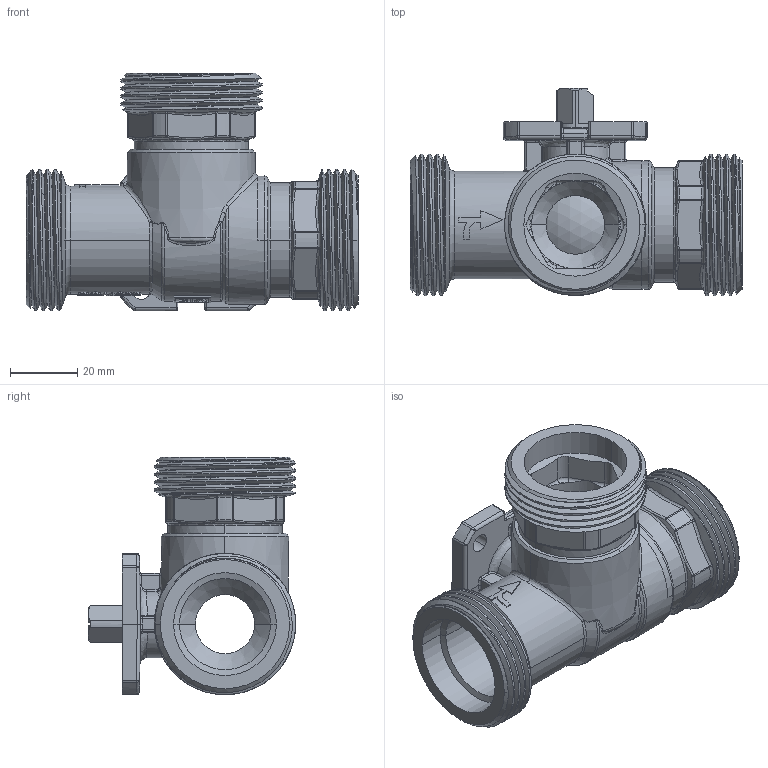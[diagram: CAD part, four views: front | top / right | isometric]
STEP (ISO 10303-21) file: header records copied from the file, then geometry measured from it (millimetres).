
FILE_DESCRIPTION((''),'2;1');
FILE_NAME('H988FT020_2346_SW0001','2015-05-11T',('64ciro'),('Vir spa'),'PRO/ENGINEER BY PARAMETRIC TECHNOLOGY CORPORATION, 2010280','PRO/ENGINEER BY PARAMETRIC TECHNOLOGY CORPORATION, 2010280','');
FILE_SCHEMA(('CONFIG_CONTROL_DESIGN'));
Products named in the file (1): H988FT020_2346_SW0001
Bounding box: 98.4 x 61.45 x 70.5 mm (x, y, z)
Volume: 83331.6 mm3; surface area: 46277.1 mm2
Topology: 1 solids, 1 shells, 1138 faces, 2852 edges, 1769 vertices
Faces by surface type: cylinder 307, plane 253, bspline 212, extrusion 179, torus 98, cone 77, sphere 12
Entity records: 51458 total; most frequent: CARTESIAN_POINT 26526, ORIENTED_EDGE 5704, DIRECTION 4315, EDGE_CURVE 2852, VERTEX_POINT 1769, AXIS2_PLACEMENT_3D 1607, B_SPLINE_CURVE_WITH_KNOTS 1249, EDGE_LOOP 1211
